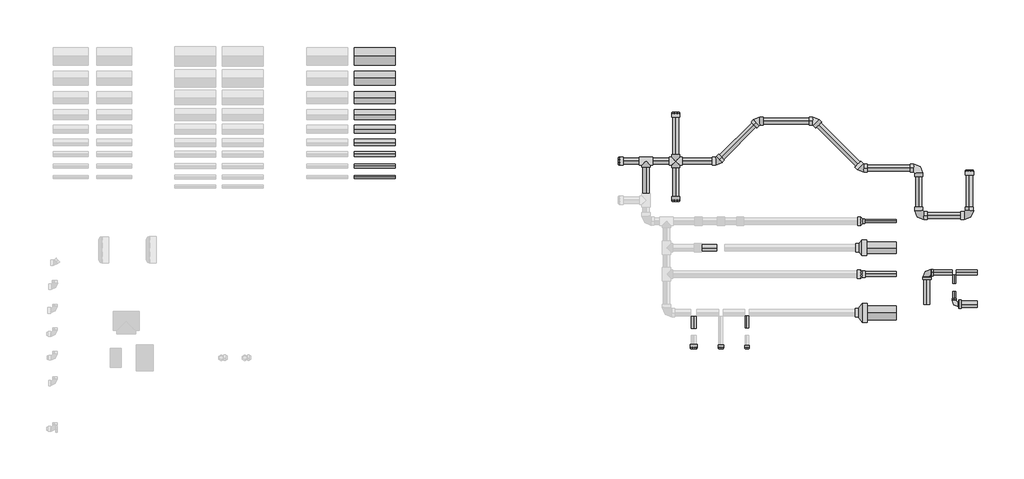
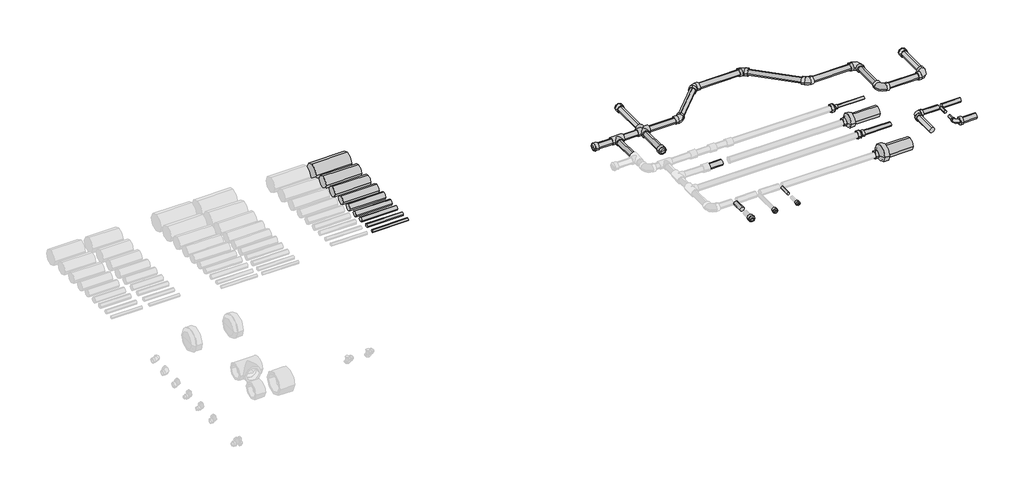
# One storey, part 4 of 4: 35 pipe segments, 22 pipe fittings.
"""IFC4 building model written with IfcOpenShell, lengths in millimetres."""

from ifc_helpers import new_model, si_unit, point, frame, frame_2d, origin, place, context, project, spatial, circle_curve, trimmed, segment, composite_curve, outline, extrude, transform, mapped, element, save
from components import pipe_fitting_b7cdcae7, pipe_fitting_35174708, pipe_fitting_ca50f0bb, pipe_fitting_64472920, pipe_fitting_a1e15368, pipe_fitting_1e9bfa45, pipe_fitting_1f838b72, pipe_fitting_b8240ae8, pipe_fitting_1c1d5d57, pipe_fitting_dfd67f19, pipe_fitting_3659187a, pipe_fitting_ea60cf70, pipe_fitting_eccebf82, pipe_fitting_7bcdb8cd

model = new_model("IFC4")

# Units and contexts
model_context = context("Model", 3, world=origin())
ifc_project = project(units=[si_unit("LENGTHUNIT", "METRE", prefix="MILLI")], contexts=[model_context])

# Site, building, storey
site = spatial("IfcSite", under=ifc_project)
building = spatial("IfcBuilding", under=site)
storey = spatial("IfcBuildingStorey", under=building, Name="Уровень 1", Elevation=0.0)

# Pipe fittings
placement = place(None, origin())
pipe_fitting_shape = pipe_fitting_b7cdcae7(model_context)
element("IfcPipeFitting", 1, ObjectType="17_Крестовина : Белый цвет", at=placement, inside=storey, context=model_context, shape_type="MappedRepresentation", body=[
    mapped(pipe_fitting_shape, transform((2059.9313391, 4186.5754741, 0.0), x_axis=(0.0, 1.0, 0.0), y_axis=(-1.0, 0.0, 0.0), z_axis=(0.0, 0.0, 1.0))),
])
pipe_fitting_2_shape = pipe_fitting_35174708(model_context)
element("IfcPipeFitting", 2, ObjectType="34_Угольник полипропиленовый 45 : Белый цвет", at=placement, inside=storey, context=model_context, shape_type="MappedRepresentation", body=[
    mapped(pipe_fitting_2_shape, transform((2326.0709216, 4186.5754741, 0.0), x_axis=(1.0, 0.0, 0.0), y_axis=(0.0, 1.0, 0.0), z_axis=(0.0, 0.0, 1.0))),
])
element("IfcPipeFitting", 3, ObjectType="34_Угольник полипропиленовый 45 : Белый цвет", at=placement, inside=storey, context=model_context, shape_type="MappedRepresentation", body=[
    mapped(pipe_fitting_2_shape, transform((2578.5198787, 4439.0244311, 0.0), x_axis=(-1.0, 0.0, 0.0), y_axis=(0.0, -1.0, 0.0), z_axis=(0.0, 0.0, 1.0))),
])
element("IfcPipeFitting", 4, ObjectType="34_Угольник полипропиленовый 45 : Белый цвет", at=placement, inside=storey, context=model_context, shape_type="MappedRepresentation", body=[
    mapped(pipe_fitting_2_shape, transform((2938.5198787, 4439.0244311, 0.0), x_axis=(-0.7071067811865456, 0.7071067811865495, 0.0), y_axis=(-0.7071067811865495, -0.7071067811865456, 0.0), z_axis=(0.0, 0.0, 1.0))),
])
element("IfcPipeFitting", 5, ObjectType="34_Угольник полипропиленовый 45 : Белый цвет", at=placement, inside=storey, context=model_context, shape_type="MappedRepresentation", body=[
    mapped(pipe_fitting_2_shape, transform((3235.5047268, 4142.039583, 0.0), x_axis=(0.7071067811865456, -0.7071067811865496, 0.0), y_axis=(0.7071067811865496, 0.7071067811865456, 0.0), z_axis=(0.0, 0.0, 1.0))),
])
pipe_fitting_3_shape = pipe_fitting_ca50f0bb(model_context)
element("IfcPipeFitting", 6, ObjectType="35_Угольник полипропиленовый 90 : Белый цвет", at=placement, inside=storey, context=model_context, shape_type="MappedRepresentation", body=[
    mapped(pipe_fitting_3_shape, transform((3595.5047268, 4142.039583, 0.0), x_axis=(0.0, 1.0, 0.0), y_axis=(-1.0, 0.0, 0.0), z_axis=(0.0, 0.0, 1.0))),
])
element("IfcPipeFitting", 7, ObjectType="35_Угольник полипропиленовый 90 : Белый цвет", at=placement, inside=storey, context=model_context, shape_type="MappedRepresentation", body=[
    mapped(pipe_fitting_3_shape, transform((3595.5047268, 3842.039583, 0.0), x_axis=(0.0, -1.0, 0.0), y_axis=(1.0, 0.0, 0.0), z_axis=(0.0, 0.0, 1.0))),
])
element("IfcPipeFitting", 8, ObjectType="35_Угольник полипропиленовый 90 : Белый цвет", at=placement, inside=storey, context=model_context, shape_type="MappedRepresentation", body=[
    mapped(pipe_fitting_3_shape, transform((3915.5047268, 3842.039583, 0.0), x_axis=(1.0, 0.0, 0.0), y_axis=(0.0, 1.0, 0.0), z_axis=(0.0, 0.0, 1.0))),
])
pipe_fitting_4_shape = pipe_fitting_64472920(model_context)
element("IfcPipeFitting", 9, ObjectType="30_Тройник полипропиленовый : Белый цвет", at=placement, inside=storey, context=model_context, shape_type="MappedRepresentation", body=[
    mapped(pipe_fitting_4_shape, transform((1872.4011304, 4186.5754741, 0.0), x_axis=(-1.0, 0.0, 0.0), y_axis=(0.0, 1.0, 0.0), z_axis=(0.0, 0.0, -1.0))),
])
pipe_fitting_5_shape = pipe_fitting_a1e15368(model_context)
element("IfcPipeFitting", 10, ObjectType="09_Заглушка : Белый цвет", at=placement, inside=storey, context=model_context, shape_type="MappedRepresentation", body=[
    mapped(pipe_fitting_5_shape, transform((1706.0709216, 4186.5754741, 0.0), x_axis=(1.0, 0.0, 0.0), y_axis=(0.0, 1.0, 0.0), z_axis=(0.0, 0.0, 1.0))),
])
element("IfcPipeFitting", 11, ObjectType="09_Заглушка : Белый цвет", at=placement, inside=storey, context=model_context, shape_type="MappedRepresentation", body=[
    mapped(pipe_fitting_5_shape, transform((2059.9313391, 4487.7754741, 0.0), x_axis=(0.0, -1.0, 0.0), y_axis=(1.0, 0.0, 0.0), z_axis=(0.0, 0.0, 1.0))),
])
element("IfcPipeFitting", 12, ObjectType="09_Заглушка : Белый цвет", at=placement, inside=storey, context=model_context, shape_type="MappedRepresentation", body=[
    mapped(pipe_fitting_5_shape, transform((2059.9313391, 3939.0244311, 0.0), x_axis=(0.0, 1.0, 0.0), y_axis=(-1.0, 0.0, 0.0), z_axis=(0.0, 0.0, 1.0))),
])
element("IfcPipeFitting", 13, ObjectType="09_Заглушка : Белый цвет", at=placement, inside=storey, context=model_context, shape_type="MappedRepresentation", body=[
    mapped(pipe_fitting_5_shape, transform((3915.5047268, 4122.039583, 0.0), x_axis=(0.0, -1.0, 0.0), y_axis=(1.0, 0.0, 0.0), z_axis=(0.0, 0.0, 1.0))),
])
pipe_fitting_6_shape = pipe_fitting_1e9bfa45(model_context)
element("IfcPipeFitting", 14, ObjectType="09_Заглушка : Белый цвет", at=placement, inside=storey, context=model_context, shape_type="MappedRepresentation", body=[
    mapped(pipe_fitting_6_shape, transform((2510.2630305, 3006.5754741, 0.0), x_axis=(0.0, 1.0, 0.0), y_axis=(-1.0, 0.0, 0.0), z_axis=(0.0, 0.0, 1.0))),
])
pipe_fitting_7_shape = pipe_fitting_1f838b72(model_context)
element("IfcPipeFitting", 15, ObjectType="09_Заглушка : Белый цвет", at=placement, inside=storey, context=model_context, shape_type="MappedRepresentation", body=[
    mapped(pipe_fitting_7_shape, transform((2345.655444, 3006.5754741, 0.0), x_axis=(0.0, 1.0, 0.0), y_axis=(-1.0, 0.0, 0.0), z_axis=(0.0, 0.0, 1.0))),
])
pipe_fitting_8_shape = pipe_fitting_b8240ae8(model_context)
element("IfcPipeFitting", 16, ObjectType="09_Заглушка : Белый цвет", at=placement, inside=storey, context=model_context, shape_type="MappedRepresentation", body=[
    mapped(pipe_fitting_8_shape, transform((2173.4672449, 3006.5754741, 0.0), x_axis=(0.0, 1.0, 0.0), y_axis=(-1.0, 0.0, 0.0), z_axis=(0.0, 0.0, 1.0))),
])
pipe_fitting_9_shape = pipe_fitting_1c1d5d57(model_context)
element("IfcPipeFitting", 17, ObjectType="23_Муфта переходная ВВ : Белый цвет", at=placement, inside=storey, context=model_context, shape_type="MappedRepresentation", body=[
    mapped(pipe_fitting_9_shape, transform((3232.4011304, 3806.5754741, 0.0), x_axis=(1.0, 0.0, 0.0), y_axis=(0.0, 1.0, 0.0), z_axis=(0.0, 0.0, 1.0))),
])
pipe_fitting_10_shape = pipe_fitting_dfd67f19(model_context)
element("IfcPipeFitting", 18, ObjectType="23_Муфта переходная ВВ : Белый цвет", at=placement, inside=storey, context=model_context, shape_type="MappedRepresentation", body=[
    mapped(pipe_fitting_10_shape, transform((3232.4011304, 3637.9359679, 0.0), x_axis=(1.0, 0.0, 0.0), y_axis=(0.0, 1.0, 0.0), z_axis=(0.0, 0.0, 1.0))),
])
pipe_fitting_11_shape = pipe_fitting_3659187a(model_context)
element("IfcPipeFitting", 19, ObjectType="23_Муфта переходная ВВ : Белый цвет", at=placement, inside=storey, context=model_context, shape_type="MappedRepresentation", body=[
    mapped(pipe_fitting_11_shape, transform((3232.4011304, 3471.255721, 0.0), x_axis=(1.0, 0.0, 0.0), y_axis=(0.0, 1.0, 0.0), z_axis=(0.0, 0.0, 1.0))),
])
pipe_fitting_12_shape = pipe_fitting_ea60cf70(model_context)
element("IfcPipeFitting", 20, ObjectType="23_Муфта переходная ВВ : Белый цвет", at=placement, inside=storey, context=model_context, shape_type="MappedRepresentation", body=[
    mapped(pipe_fitting_12_shape, transform((3232.4011304, 3226.5754741, 0.0), x_axis=(1.0, 0.0, 0.0), y_axis=(0.0, 1.0, 0.0), z_axis=(0.0, 0.0, 1.0))),
])
pipe_fitting_13_shape = pipe_fitting_eccebf82(model_context)
element("IfcPipeFitting", 21, ObjectType="40_Угольник переходной 90 : Белый цвет", at=placement, inside=storey, context=model_context, shape_type="MappedRepresentation", body=[
    mapped(pipe_fitting_13_shape, transform((3646.3831531, 3476.9673083, 0.0), x_axis=(0.0, 1.0, 0.0), y_axis=(-1.0, 0.0, 0.0), z_axis=(0.0, 0.0, 1.0))),
])
pipe_fitting_14_shape = pipe_fitting_7bcdb8cd(model_context)
element("IfcPipeFitting", 22, ObjectType="40_Угольник переходной 90 : Белый цвет", at=placement, inside=storey, context=model_context, shape_type="MappedRepresentation", body=[
    mapped(pipe_fitting_14_shape, transform((3823.5331531, 3280.5671638, 0.0), x_axis=(-1.0, 0.0, 0.0), y_axis=(0.0, -1.0, 0.0), z_axis=(0.0, 0.0, 1.0))),
])

# Pipe segments
element("IfcPipeSegment", 23, ObjectType="Полипропиленовые трубы, армированные стекловолокном PN25/SDR6, 2 м_Белый цвет", at=placement, inside=storey, context=model_context, shape_type="SweptSolid", body=[
    extrude(outline(composite_curve([segment(trimmed(circle_curve(frame_2d((4848.4107276, 0.0)), 55.0), [point((4793.4107276, 0.0))], [point((4848.4107276, 55.0))], False, "CARTESIAN"), True, "CONTINUOUS"), segment(trimmed(circle_curve(frame_2d((4848.4107276, 0.0)), 55.0), [point((4848.4107276, 55.0))], [point((4903.4107276, 0.0))], False, "CARTESIAN"), True, "CONTINUOUS"), segment(trimmed(circle_curve(frame_2d((4848.4107276, 0.0)), 55.0), [point((4903.4107276, 0.0))], [point((4848.4107276, -55.0))], False, "CARTESIAN"), True, "CONTINUOUS"), segment(trimmed(circle_curve(frame_2d((4848.4107276, 0.0)), 55.0), [point((4848.4107276, -55.0))], [point((4793.4107276, 0.0))], False, "CARTESIAN"), True, "CONTINUOUS")], self_intersect=False)), frame((29.4249757, 0.0, 0.0), z_axis=(1.0, 0.0, 0.0), x_axis=(0.0, 1.0, 0.0)), (0.0, 0.0, 1.0), 260.0),
])
element("IfcPipeSegment", 24, ObjectType="Полипропиленовые трубы, армированные стекловолокном PN25/SDR6, 2 м_Белый цвет", at=placement, inside=storey, context=model_context, shape_type="SweptSolid", body=[
    extrude(outline(composite_curve([segment(trimmed(circle_curve(frame_2d((4709.8355043, 0.0)), 45.0), [point((4664.8355043, 0.0))], [point((4709.8355043, 45.0))], False, "CARTESIAN"), True, "CONTINUOUS"), segment(trimmed(circle_curve(frame_2d((4709.8355043, 0.0)), 45.0), [point((4709.8355043, 45.0))], [point((4754.8355043, 0.0))], False, "CARTESIAN"), True, "CONTINUOUS"), segment(trimmed(circle_curve(frame_2d((4709.8355043, 0.0)), 45.0), [point((4754.8355043, 0.0))], [point((4709.8355043, -45.0))], False, "CARTESIAN"), True, "CONTINUOUS"), segment(trimmed(circle_curve(frame_2d((4709.8355043, 0.0)), 45.0), [point((4709.8355043, -45.0))], [point((4664.8355043, 0.0))], False, "CARTESIAN"), True, "CONTINUOUS")], self_intersect=False)), frame((29.4249757, 0.0, 0.0), z_axis=(1.0, 0.0, 0.0), x_axis=(0.0, 1.0, 0.0)), (0.0, 0.0, 1.0), 260.0),
])
element("IfcPipeSegment", 25, ObjectType="Полипропиленовые трубы, армированные стекловолокном PN25/SDR6, 2 м_Белый цвет", at=placement, inside=storey, context=model_context, shape_type="SweptSolid", body=[
    extrude(outline(composite_curve([segment(trimmed(circle_curve(frame_2d((4588.2982183, 0.0)), 37.5), [point((4550.7982183, 0.0))], [point((4588.2982183, 37.5))], False, "CARTESIAN"), True, "CONTINUOUS"), segment(trimmed(circle_curve(frame_2d((4588.2982183, 0.0)), 37.5), [point((4588.2982183, 37.5))], [point((4625.7982183, 0.0))], False, "CARTESIAN"), True, "CONTINUOUS"), segment(trimmed(circle_curve(frame_2d((4588.2982183, 0.0)), 37.5), [point((4625.7982183, 0.0))], [point((4588.2982183, -37.5))], False, "CARTESIAN"), True, "CONTINUOUS"), segment(trimmed(circle_curve(frame_2d((4588.2982183, 0.0)), 37.5), [point((4588.2982183, -37.5))], [point((4550.7982183, 0.0))], False, "CARTESIAN"), True, "CONTINUOUS")], self_intersect=False)), frame((29.4249757, 0.0, 0.0), z_axis=(1.0, 0.0, 0.0), x_axis=(0.0, 1.0, 0.0)), (0.0, 0.0, 1.0), 260.0),
])
element("IfcPipeSegment", 26, ObjectType="Полипропиленовые трубы, армированные стекловолокном PN25/SDR6, 2 м_Белый цвет", at=placement, inside=storey, context=model_context, shape_type="SweptSolid", body=[
    extrude(outline(composite_curve([segment(trimmed(circle_curve(frame_2d((4480.6238499, 0.0)), 31.5), [point((4449.1238499, 0.0))], [point((4480.6238499, 31.5))], False, "CARTESIAN"), True, "CONTINUOUS"), segment(trimmed(circle_curve(frame_2d((4480.6238499, 0.0)), 31.5), [point((4480.6238499, 31.5))], [point((4512.1238499, 0.0))], False, "CARTESIAN"), True, "CONTINUOUS"), segment(trimmed(circle_curve(frame_2d((4480.6238499, 0.0)), 31.5), [point((4512.1238499, 0.0))], [point((4480.6238499, -31.5))], False, "CARTESIAN"), True, "CONTINUOUS"), segment(trimmed(circle_curve(frame_2d((4480.6238499, 0.0)), 31.5), [point((4480.6238499, -31.5))], [point((4449.1238499, 0.0))], False, "CARTESIAN"), True, "CONTINUOUS")], self_intersect=False)), frame((29.4249757, 0.0, 0.0), z_axis=(1.0, 0.0, 0.0), x_axis=(0.0, 1.0, 0.0)), (0.0, 0.0, 1.0), 260.0),
])
element("IfcPipeSegment", 27, ObjectType="Полипропиленовые трубы, армированные стекловолокном PN25/SDR6, 2 м_Белый цвет", at=placement, inside=storey, context=model_context, shape_type="SweptSolid", body=[
    extrude(outline(composite_curve([segment(trimmed(circle_curve(frame_2d((4389.5013485, 0.0)), 25.0), [point((4364.5013485, 0.0))], [point((4389.5013485, 25.0))], False, "CARTESIAN"), True, "CONTINUOUS"), segment(trimmed(circle_curve(frame_2d((4389.5013485, 0.0)), 25.0), [point((4389.5013485, 25.0))], [point((4414.5013485, 0.0))], False, "CARTESIAN"), True, "CONTINUOUS"), segment(trimmed(circle_curve(frame_2d((4389.5013485, 0.0)), 25.0), [point((4414.5013485, 0.0))], [point((4389.5013485, -25.0))], False, "CARTESIAN"), True, "CONTINUOUS"), segment(trimmed(circle_curve(frame_2d((4389.5013485, 0.0)), 25.0), [point((4389.5013485, -25.0))], [point((4364.5013485, 0.0))], False, "CARTESIAN"), True, "CONTINUOUS")], self_intersect=False)), frame((29.4249757, 0.0, 0.0), z_axis=(1.0, 0.0, 0.0), x_axis=(0.0, 1.0, 0.0)), (0.0, 0.0, 1.0), 260.0),
])
element("IfcPipeSegment", 28, ObjectType="Полипропиленовые трубы, армированные стекловолокном PN25/SDR6, 2 м_Белый цвет", at=placement, inside=storey, context=model_context, shape_type="SweptSolid", body=[
    extrude(outline(composite_curve([segment(trimmed(circle_curve(frame_2d((4303.8771946, 0.0)), 20.0), [point((4283.8771946, 0.0))], [point((4303.8771946, 20.0))], False, "CARTESIAN"), True, "CONTINUOUS"), segment(trimmed(circle_curve(frame_2d((4303.8771946, 0.0)), 20.0), [point((4303.8771946, 20.0))], [point((4323.8771946, 0.0))], False, "CARTESIAN"), True, "CONTINUOUS"), segment(trimmed(circle_curve(frame_2d((4303.8771946, 0.0)), 20.0), [point((4323.8771946, 0.0))], [point((4303.8771946, -20.0))], False, "CARTESIAN"), True, "CONTINUOUS"), segment(trimmed(circle_curve(frame_2d((4303.8771946, 0.0)), 20.0), [point((4303.8771946, -20.0))], [point((4283.8771946, 0.0))], False, "CARTESIAN"), True, "CONTINUOUS")], self_intersect=False)), frame((29.4249757, 0.0, 0.0), z_axis=(1.0, 0.0, 0.0), x_axis=(0.0, 1.0, 0.0)), (0.0, 0.0, 1.0), 260.0),
])
element("IfcPipeSegment", 29, ObjectType="Полипропиленовые трубы, армированные стекловолокном PN25/SDR6, 2 м_Белый цвет", at=placement, inside=storey, context=model_context, shape_type="SweptSolid", body=[
    extrude(outline(composite_curve([segment(trimmed(circle_curve(frame_2d((4230.5606883, 0.0)), 16.0), [point((4214.5606883, 0.0))], [point((4230.5606883, 16.0))], False, "CARTESIAN"), True, "CONTINUOUS"), segment(trimmed(circle_curve(frame_2d((4230.5606883, 0.0)), 16.0), [point((4230.5606883, 16.0))], [point((4246.5606883, 0.0))], False, "CARTESIAN"), True, "CONTINUOUS"), segment(trimmed(circle_curve(frame_2d((4230.5606883, 0.0)), 16.0), [point((4246.5606883, 0.0))], [point((4230.5606883, -16.0))], False, "CARTESIAN"), True, "CONTINUOUS"), segment(trimmed(circle_curve(frame_2d((4230.5606883, 0.0)), 16.0), [point((4230.5606883, -16.0))], [point((4214.5606883, 0.0))], False, "CARTESIAN"), True, "CONTINUOUS")], self_intersect=False)), frame((29.4249757, 0.0, 0.0), z_axis=(1.0, 0.0, 0.0), x_axis=(0.0, 1.0, 0.0)), (0.0, 0.0, 1.0), 260.0),
])
element("IfcPipeSegment", 30, ObjectType="Полипропиленовые трубы, армированные стекловолокном PN25/SDR6, 2 м_Белый цвет", at=placement, inside=storey, context=model_context, shape_type="SweptSolid", body=[
    extrude(outline(composite_curve([segment(trimmed(circle_curve(frame_2d((4154.7986605, 0.0)), 12.5), [point((4142.2986605, 0.0))], [point((4154.7986605, 12.5))], False, "CARTESIAN"), True, "CONTINUOUS"), segment(trimmed(circle_curve(frame_2d((4154.7986605, 0.0)), 12.5), [point((4154.7986605, 12.5))], [point((4167.2986605, 0.0))], False, "CARTESIAN"), True, "CONTINUOUS"), segment(trimmed(circle_curve(frame_2d((4154.7986605, 0.0)), 12.5), [point((4167.2986605, 0.0))], [point((4154.7986605, -12.5))], False, "CARTESIAN"), True, "CONTINUOUS"), segment(trimmed(circle_curve(frame_2d((4154.7986605, 0.0)), 12.5), [point((4154.7986605, -12.5))], [point((4142.2986605, 0.0))], False, "CARTESIAN"), True, "CONTINUOUS")], self_intersect=False)), frame((29.4249757, 0.0, 0.0), z_axis=(1.0, 0.0, 0.0), x_axis=(0.0, 1.0, 0.0)), (0.0, 0.0, 1.0), 260.0),
])
element("IfcPipeSegment", 31, ObjectType="Полипропиленовые трубы, армированные стекловолокном PN25/SDR6, 2 м_Белый цвет", at=placement, inside=storey, context=model_context, shape_type="SweptSolid", body=[
    extrude(outline(composite_curve([segment(trimmed(circle_curve(frame_2d((4085.0159711, 0.0)), 10.0), [point((4075.0159711, 0.0))], [point((4085.0159711, 10.0))], False, "CARTESIAN"), True, "CONTINUOUS"), segment(trimmed(circle_curve(frame_2d((4085.0159711, 0.0)), 10.0), [point((4085.0159711, 10.0))], [point((4095.0159711, 0.0))], False, "CARTESIAN"), True, "CONTINUOUS"), segment(trimmed(circle_curve(frame_2d((4085.0159711, 0.0)), 10.0), [point((4095.0159711, 0.0))], [point((4085.0159711, -10.0))], False, "CARTESIAN"), True, "CONTINUOUS"), segment(trimmed(circle_curve(frame_2d((4085.0159711, 0.0)), 10.0), [point((4085.0159711, -10.0))], [point((4075.0159711, 0.0))], False, "CARTESIAN"), True, "CONTINUOUS")], self_intersect=False)), frame((29.4249757, 0.0, 0.0), z_axis=(1.0, 0.0, 0.0), x_axis=(0.0, 1.0, 0.0)), (0.0, 0.0, 1.0), 260.0),
])
element("IfcPipeSegment", 32, ObjectType="PN10/SDR11, 4 м_Белый цвет", at=placement, inside=storey, context=model_context, shape_type="SweptSolid", body=[
    extrude(outline(composite_curve([segment(trimmed(circle_curve(frame_2d((4186.5754741, 0.0)), 20.0), [point((4166.5754741, 0.0))], [point((4186.5754741, 20.0))], False, "CARTESIAN"), True, "CONTINUOUS"), segment(trimmed(circle_curve(frame_2d((4186.5754741, 0.0)), 20.0), [point((4186.5754741, 20.0))], [point((4206.5754741, 0.0))], False, "CARTESIAN"), True, "CONTINUOUS"), segment(trimmed(circle_curve(frame_2d((4186.5754741, 0.0)), 20.0), [point((4206.5754741, 0.0))], [point((4186.5754741, -20.0))], False, "CARTESIAN"), True, "CONTINUOUS"), segment(trimmed(circle_curve(frame_2d((4186.5754741, 0.0)), 20.0), [point((4186.5754741, -20.0))], [point((4166.5754741, 0.0))], False, "CARTESIAN"), True, "CONTINUOUS")], self_intersect=False)), frame((2081.1313391, 0.0, 0.0), z_axis=(1.0, 0.0, 0.0), x_axis=(0.0, 1.0, 0.0)), (0.0, 0.0, 1.0), 231.3326671),
])
element("IfcPipeSegment", 33, ObjectType="PN10/SDR11, 4 м_Белый цвет", at=placement, inside=storey, context=model_context, shape_type="SweptSolid", body=[
    extrude(outline(composite_curve([segment(trimmed(circle_curve(frame_2d((0.0, 2059.9313391)), 20.0), [point((0.0, 2039.9313391))], [point((-20.0, 2059.9313391))], False, "CARTESIAN"), True, "CONTINUOUS"), segment(trimmed(circle_curve(frame_2d((0.0, 2059.9313391)), 20.0), [point((-20.0, 2059.9313391))], [point((0.0, 2079.9313391))], False, "CARTESIAN"), True, "CONTINUOUS"), segment(trimmed(circle_curve(frame_2d((0.0, 2059.9313391)), 20.0), [point((0.0, 2079.9313391))], [point((20.0, 2059.9313391))], False, "CARTESIAN"), True, "CONTINUOUS"), segment(trimmed(circle_curve(frame_2d((0.0, 2059.9313391)), 20.0), [point((20.0, 2059.9313391))], [point((0.0, 2039.9313391))], False, "CARTESIAN"), True, "CONTINUOUS")], self_intersect=False)), frame((0.0, 3939.0244311, 0.0), z_axis=(0.0, 1.0, 0.0), x_axis=(0.0, 0.0, 1.0)), (0.0, 0.0, 1.0), 226.351043),
])
element("IfcPipeSegment", 34, ObjectType="PN10/SDR11, 4 м_Белый цвет", at=placement, inside=storey, context=model_context, shape_type="SweptSolid", body=[
    extrude(outline(composite_curve([segment(trimmed(circle_curve(frame_2d((0.0, 2059.9313391)), 20.0), [point((0.0, 2079.9313391))], [point((20.0, 2059.9313391))], False, "CARTESIAN"), True, "CONTINUOUS"), segment(trimmed(circle_curve(frame_2d((0.0, 2059.9313391)), 20.0), [point((20.0, 2059.9313391))], [point((0.0, 2039.9313391))], False, "CARTESIAN"), True, "CONTINUOUS"), segment(trimmed(circle_curve(frame_2d((0.0, 2059.9313391)), 20.0), [point((0.0, 2039.9313391))], [point((-20.0, 2059.9313391))], False, "CARTESIAN"), True, "CONTINUOUS"), segment(trimmed(circle_curve(frame_2d((0.0, 2059.9313391)), 20.0), [point((-20.0, 2059.9313391))], [point((0.0, 2079.9313391))], False, "CARTESIAN"), True, "CONTINUOUS")], self_intersect=False)), frame((0.0, 4207.7754741, 0.0), z_axis=(0.0, 1.0, 0.0), x_axis=(0.0, 0.0, 1.0)), (0.0, 0.0, 1.0), 280.0),
])
element("IfcPipeSegment", 35, ObjectType="PN10/SDR11, 4 м_Белый цвет", at=placement, inside=storey, context=model_context, shape_type="SweptSolid", body=[
    extrude(outline(composite_curve([segment(trimmed(circle_curve(frame_2d((4186.5754741, 0.0)), 20.0), [point((4166.5754741, 0.0))], [point((4186.5754741, 20.0))], False, "CARTESIAN"), True, "CONTINUOUS"), segment(trimmed(circle_curve(frame_2d((4186.5754741, 0.0)), 20.0), [point((4186.5754741, 20.0))], [point((4206.5754741, 0.0))], False, "CARTESIAN"), True, "CONTINUOUS"), segment(trimmed(circle_curve(frame_2d((4186.5754741, 0.0)), 20.0), [point((4206.5754741, 0.0))], [point((4186.5754741, -20.0))], False, "CARTESIAN"), True, "CONTINUOUS"), segment(trimmed(circle_curve(frame_2d((4186.5754741, 0.0)), 20.0), [point((4186.5754741, -20.0))], [point((4166.5754741, 0.0))], False, "CARTESIAN"), True, "CONTINUOUS")], self_intersect=False)), frame((1894.4011304, 0.0, 0.0), z_axis=(1.0, 0.0, 0.0), x_axis=(0.0, 1.0, 0.0)), (0.0, 0.0, 1.0), 144.3302087),
])
element("IfcPipeSegment", 36, ObjectType="PN10/SDR11, 4 м_Белый цвет", at=placement, inside=storey, context=model_context, shape_type="SweptSolid", body=[
    extrude(outline(composite_curve([segment(trimmed(circle_curve(frame_2d((0.0, 20.0)), 20.0), [point((20.0, 20.0))], [point((0.0, 0.0))], False, "CARTESIAN"), True, "CONTINUOUS"), segment(trimmed(circle_curve(frame_2d((0.0, 20.0)), 20.0), [point((0.0, 0.0))], [point((-20.0, 20.0))], False, "CARTESIAN"), True, "CONTINUOUS"), segment(trimmed(circle_curve(frame_2d((0.0, 20.0)), 20.0), [point((-20.0, 20.0))], [point((0.0, 40.0))], False, "CARTESIAN"), True, "CONTINUOUS"), segment(trimmed(circle_curve(frame_2d((0.0, 20.0)), 20.0), [point((0.0, 40.0))], [point((20.0, 20.0))], False, "CARTESIAN"), True, "CONTINUOUS")], self_intersect=False)), frame((2335.6924639, 4196.1970164, 20.0), z_axis=(0.7071067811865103, 0.7071067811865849, 0.0), x_axis=(0.7071067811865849, -0.7071067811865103, 0.0)), (0.0, 0.0, 1.0), 329.8029078),
])
element("IfcPipeSegment", 37, ObjectType="PN10/SDR11, 4 м_Белый цвет", at=placement, inside=storey, context=model_context, shape_type="SweptSolid", body=[
    extrude(outline(composite_curve([segment(trimmed(circle_curve(frame_2d((4439.0244311, 0.0)), 20.0), [point((4419.0244311, 0.0))], [point((4439.0244311, 20.0))], False, "CARTESIAN"), True, "CONTINUOUS"), segment(trimmed(circle_curve(frame_2d((4439.0244311, 0.0)), 20.0), [point((4439.0244311, 20.0))], [point((4459.0244311, 0.0))], False, "CARTESIAN"), True, "CONTINUOUS"), segment(trimmed(circle_curve(frame_2d((4439.0244311, 0.0)), 20.0), [point((4459.0244311, 0.0))], [point((4439.0244311, -20.0))], False, "CARTESIAN"), True, "CONTINUOUS"), segment(trimmed(circle_curve(frame_2d((4439.0244311, 0.0)), 20.0), [point((4439.0244311, -20.0))], [point((4419.0244311, 0.0))], False, "CARTESIAN"), True, "CONTINUOUS")], self_intersect=False)), frame((2592.1267942, 0.0, 0.0), z_axis=(1.0, 0.0, 0.0), x_axis=(0.0, 1.0, 0.0)), (0.0, 0.0, 1.0), 332.786169),
])
element("IfcPipeSegment", 38, ObjectType="PN10/SDR11, 4 м_Белый цвет", at=placement, inside=storey, context=model_context, shape_type="SweptSolid", body=[
    extrude(outline(composite_curve([segment(trimmed(circle_curve(frame_2d((0.0, -20.0)), 20.0), [point((-20.0, -20.0))], [point((0.0, 0.0))], False, "CARTESIAN"), True, "CONTINUOUS"), segment(trimmed(circle_curve(frame_2d((0.0, -20.0)), 20.0), [point((0.0, 0.0))], [point((20.0, -20.0))], False, "CARTESIAN"), True, "CONTINUOUS"), segment(trimmed(circle_curve(frame_2d((0.0, -20.0)), 20.0), [point((20.0, -20.0))], [point((0.0, -40.0))], False, "CARTESIAN"), True, "CONTINUOUS"), segment(trimmed(circle_curve(frame_2d((0.0, -20.0)), 20.0), [point((0.0, -40.0))], [point((-20.0, -20.0))], False, "CARTESIAN"), True, "CONTINUOUS")], self_intersect=False)), frame((3225.8831845, 4151.6611253, -20.0), z_axis=(-0.7071067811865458, 0.7071067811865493, 0.0), x_axis=(0.7071067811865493, 0.7071067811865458, 0.0)), (0.0, 0.0, 1.0), 392.786169),
])
element("IfcPipeSegment", 39, ObjectType="PN10/SDR11, 4 м_Белый цвет", at=placement, inside=storey, context=model_context, shape_type="SweptSolid", body=[
    extrude(outline(composite_curve([segment(trimmed(circle_curve(frame_2d((4142.039583, 0.0)), 20.0), [point((4122.039583, 0.0))], [point((4142.039583, 20.0))], False, "CARTESIAN"), True, "CONTINUOUS"), segment(trimmed(circle_curve(frame_2d((4142.039583, 0.0)), 20.0), [point((4142.039583, 20.0))], [point((4162.039583, 0.0))], False, "CARTESIAN"), True, "CONTINUOUS"), segment(trimmed(circle_curve(frame_2d((4142.039583, 0.0)), 20.0), [point((4162.039583, 0.0))], [point((4142.039583, -20.0))], False, "CARTESIAN"), True, "CONTINUOUS"), segment(trimmed(circle_curve(frame_2d((4142.039583, 0.0)), 20.0), [point((4142.039583, -20.0))], [point((4122.039583, 0.0))], False, "CARTESIAN"), True, "CONTINUOUS")], self_intersect=False)), frame((3249.1116423, 0.0, 0.0), z_axis=(1.0, 0.0, 0.0), x_axis=(0.0, 1.0, 0.0)), (0.0, 0.0, 1.0), 313.5430845),
])
element("IfcPipeSegment", 40, ObjectType="PN10/SDR11, 4 м_Белый цвет", at=placement, inside=storey, context=model_context, shape_type="SweptSolid", body=[
    extrude(outline(composite_curve([segment(trimmed(circle_curve(frame_2d((0.0, 3595.5047268)), 20.0), [point((0.0, 3575.5047268))], [point((-20.0, 3595.5047268))], False, "CARTESIAN"), True, "CONTINUOUS"), segment(trimmed(circle_curve(frame_2d((0.0, 3595.5047268)), 20.0), [point((-20.0, 3595.5047268))], [point((0.0, 3615.5047268))], False, "CARTESIAN"), True, "CONTINUOUS"), segment(trimmed(circle_curve(frame_2d((0.0, 3595.5047268)), 20.0), [point((0.0, 3615.5047268))], [point((20.0, 3595.5047268))], False, "CARTESIAN"), True, "CONTINUOUS"), segment(trimmed(circle_curve(frame_2d((0.0, 3595.5047268)), 20.0), [point((20.0, 3595.5047268))], [point((0.0, 3575.5047268))], False, "CARTESIAN"), True, "CONTINUOUS")], self_intersect=False)), frame((0.0, 3874.889583, 0.0), z_axis=(0.0, 1.0, 0.0), x_axis=(0.0, 0.0, 1.0)), (0.0, 0.0, 1.0), 234.3),
])
element("IfcPipeSegment", 41, ObjectType="PN10/SDR11, 4 м_Белый цвет", at=placement, inside=storey, context=model_context, shape_type="SweptSolid", body=[
    extrude(outline(composite_curve([segment(trimmed(circle_curve(frame_2d((3842.039583, 0.0)), 20.0), [point((3822.039583, 0.0))], [point((3842.039583, 20.0))], False, "CARTESIAN"), True, "CONTINUOUS"), segment(trimmed(circle_curve(frame_2d((3842.039583, 0.0)), 20.0), [point((3842.039583, 20.0))], [point((3862.039583, 0.0))], False, "CARTESIAN"), True, "CONTINUOUS"), segment(trimmed(circle_curve(frame_2d((3842.039583, 0.0)), 20.0), [point((3862.039583, 0.0))], [point((3842.039583, -20.0))], False, "CARTESIAN"), True, "CONTINUOUS"), segment(trimmed(circle_curve(frame_2d((3842.039583, 0.0)), 20.0), [point((3842.039583, -20.0))], [point((3822.039583, 0.0))], False, "CARTESIAN"), True, "CONTINUOUS")], self_intersect=False)), frame((3628.3547268, 0.0, 0.0), z_axis=(1.0, 0.0, 0.0), x_axis=(0.0, 1.0, 0.0)), (0.0, 0.0, 1.0), 254.3),
])
element("IfcPipeSegment", 42, ObjectType="PN10/SDR11, 4 м_Белый цвет", at=placement, inside=storey, context=model_context, shape_type="SweptSolid", body=[
    extrude(outline(composite_curve([segment(trimmed(circle_curve(frame_2d((0.0, 3915.5047268)), 20.0), [point((0.0, 3935.5047268))], [point((20.0, 3915.5047268))], False, "CARTESIAN"), True, "CONTINUOUS"), segment(trimmed(circle_curve(frame_2d((0.0, 3915.5047268)), 20.0), [point((20.0, 3915.5047268))], [point((0.0, 3895.5047268))], False, "CARTESIAN"), True, "CONTINUOUS"), segment(trimmed(circle_curve(frame_2d((0.0, 3915.5047268)), 20.0), [point((0.0, 3895.5047268))], [point((-20.0, 3915.5047268))], False, "CARTESIAN"), True, "CONTINUOUS"), segment(trimmed(circle_curve(frame_2d((0.0, 3915.5047268)), 20.0), [point((-20.0, 3915.5047268))], [point((0.0, 3935.5047268))], False, "CARTESIAN"), True, "CONTINUOUS")], self_intersect=False)), frame((0.0, 3874.889583, 0.0), z_axis=(0.0, 1.0, 0.0), x_axis=(0.0, 0.0, 1.0)), (0.0, 0.0, 1.0), 247.15),
])
element("IfcPipeSegment", 43, ObjectType="PN10/SDR11, 4 м_Белый цвет", at=placement, inside=storey, context=model_context, shape_type="SweptSolid", body=[
    extrude(outline(composite_curve([segment(trimmed(circle_curve(frame_2d((4186.5754741, 0.0)), 20.0), [point((4166.5754741, 0.0))], [point((4186.5754741, 20.0))], False, "CARTESIAN"), True, "CONTINUOUS"), segment(trimmed(circle_curve(frame_2d((4186.5754741, 0.0)), 20.0), [point((4186.5754741, 20.0))], [point((4206.5754741, 0.0))], False, "CARTESIAN"), True, "CONTINUOUS"), segment(trimmed(circle_curve(frame_2d((4186.5754741, 0.0)), 20.0), [point((4206.5754741, 0.0))], [point((4186.5754741, -20.0))], False, "CARTESIAN"), True, "CONTINUOUS"), segment(trimmed(circle_curve(frame_2d((4186.5754741, 0.0)), 20.0), [point((4186.5754741, -20.0))], [point((4166.5754741, 0.0))], False, "CARTESIAN"), True, "CONTINUOUS")], self_intersect=False)), frame((1706.0709216, 0.0, 0.0), z_axis=(1.0, 0.0, 0.0), x_axis=(0.0, 1.0, 0.0)), (0.0, 0.0, 1.0), 144.3302087),
])
element("IfcPipeSegment", 44, ObjectType="PN10/SDR11, 4 м_Белый цвет", at=placement, inside=storey, context=model_context, shape_type="SweptSolid", body=[
    extrude(outline(composite_curve([segment(trimmed(circle_curve(frame_2d((0.0, 1872.4011304)), 20.0), [point((0.0, 1852.4011304))], [point((-20.0, 1872.4011304))], False, "CARTESIAN"), True, "CONTINUOUS"), segment(trimmed(circle_curve(frame_2d((0.0, 1872.4011304)), 20.0), [point((-20.0, 1872.4011304))], [point((0.0, 1892.4011304))], False, "CARTESIAN"), True, "CONTINUOUS"), segment(trimmed(circle_curve(frame_2d((0.0, 1872.4011304)), 20.0), [point((0.0, 1892.4011304))], [point((20.0, 1872.4011304))], False, "CARTESIAN"), True, "CONTINUOUS"), segment(trimmed(circle_curve(frame_2d((0.0, 1872.4011304)), 20.0), [point((20.0, 1872.4011304))], [point((0.0, 1852.4011304))], False, "CARTESIAN"), True, "CONTINUOUS")], self_intersect=False)), frame((0.0, 3961.0244311, 0.0), z_axis=(0.0, 1.0, 0.0), x_axis=(0.0, 0.0, 1.0)), (0.0, 0.0, 1.0), 206.551043),
])
element("IfcPipeSegment", 45, ObjectType="PN10/SDR11, 4 м_Белый цвет", at=placement, inside=storey, context=model_context, shape_type="SweptSolid", body=[
    extrude(outline(composite_curve([segment(trimmed(circle_curve(frame_2d((3806.5754741, 0.0)), 10.0), [point((3796.5754741, 0.0))], [point((3806.5754741, 10.0))], False, "CARTESIAN"), True, "CONTINUOUS"), segment(trimmed(circle_curve(frame_2d((3806.5754741, 0.0)), 10.0), [point((3806.5754741, 10.0))], [point((3816.5754741, 0.0))], False, "CARTESIAN"), True, "CONTINUOUS"), segment(trimmed(circle_curve(frame_2d((3806.5754741, 0.0)), 10.0), [point((3816.5754741, 0.0))], [point((3806.5754741, -10.0))], False, "CARTESIAN"), True, "CONTINUOUS"), segment(trimmed(circle_curve(frame_2d((3806.5754741, 0.0)), 10.0), [point((3806.5754741, -10.0))], [point((3796.5754741, 0.0))], False, "CARTESIAN"), True, "CONTINUOUS")], self_intersect=False)), frame((3241.4011304, 0.0, 0.0), z_axis=(1.0, 0.0, 0.0), x_axis=(0.0, 1.0, 0.0)), (0.0, 0.0, 1.0), 211.0),
])
element("IfcPipeSegment", 46, ObjectType="PN10/SDR11, 4 м_Белый цвет", at=placement, inside=storey, context=model_context, shape_type="SweptSolid", body=[
    extrude(outline(composite_curve([segment(trimmed(circle_curve(frame_2d((3637.9359679, 0.0)), 37.5), [point((3600.4359679, 0.0))], [point((3637.9359679, 37.5))], False, "CARTESIAN"), True, "CONTINUOUS"), segment(trimmed(circle_curve(frame_2d((3637.9359679, 0.0)), 37.5), [point((3637.9359679, 37.5))], [point((3675.4359679, 0.0))], False, "CARTESIAN"), True, "CONTINUOUS"), segment(trimmed(circle_curve(frame_2d((3637.9359679, 0.0)), 37.5), [point((3675.4359679, 0.0))], [point((3637.9359679, -37.5))], False, "CARTESIAN"), True, "CONTINUOUS"), segment(trimmed(circle_curve(frame_2d((3637.9359679, 0.0)), 37.5), [point((3637.9359679, -37.5))], [point((3600.4359679, 0.0))], False, "CARTESIAN"), True, "CONTINUOUS")], self_intersect=False)), frame((3236.9011304, 0.0, 0.0), z_axis=(1.0, 0.0, 0.0), x_axis=(0.0, 1.0, 0.0)), (0.0, 0.0, 1.0), 215.5),
])
element("IfcPipeSegment", 47, ObjectType="PN10/SDR11, 4 м_Белый цвет", at=placement, inside=storey, context=model_context, shape_type="SweptSolid", body=[
    extrude(outline(composite_curve([segment(trimmed(circle_curve(frame_2d((3471.255721, 0.0)), 16.0), [point((3455.255721, 0.0))], [point((3471.255721, 16.0))], False, "CARTESIAN"), True, "CONTINUOUS"), segment(trimmed(circle_curve(frame_2d((3471.255721, 0.0)), 16.0), [point((3471.255721, 16.0))], [point((3487.255721, 0.0))], False, "CARTESIAN"), True, "CONTINUOUS"), segment(trimmed(circle_curve(frame_2d((3471.255721, 0.0)), 16.0), [point((3487.255721, 0.0))], [point((3471.255721, -16.0))], False, "CARTESIAN"), True, "CONTINUOUS"), segment(trimmed(circle_curve(frame_2d((3471.255721, 0.0)), 16.0), [point((3471.255721, -16.0))], [point((3455.255721, 0.0))], False, "CARTESIAN"), True, "CONTINUOUS")], self_intersect=False)), frame((3238.9011304, 0.0, 0.0), z_axis=(1.0, 0.0, 0.0), x_axis=(0.0, 1.0, 0.0)), (0.0, 0.0, 1.0), 213.5),
])
element("IfcPipeSegment", 48, ObjectType="PN10/SDR11, 4 м_Белый цвет", at=placement, inside=storey, context=model_context, shape_type="SweptSolid", body=[
    extrude(outline(composite_curve([segment(trimmed(circle_curve(frame_2d((3226.5754741, 0.0)), 45.0), [point((3181.5754741, 0.0))], [point((3226.5754741, 45.0))], False, "CARTESIAN"), True, "CONTINUOUS"), segment(trimmed(circle_curve(frame_2d((3226.5754741, 0.0)), 45.0), [point((3226.5754741, 45.0))], [point((3271.5754741, 0.0))], False, "CARTESIAN"), True, "CONTINUOUS"), segment(trimmed(circle_curve(frame_2d((3226.5754741, 0.0)), 45.0), [point((3271.5754741, 0.0))], [point((3226.5754741, -45.0))], False, "CARTESIAN"), True, "CONTINUOUS"), segment(trimmed(circle_curve(frame_2d((3226.5754741, 0.0)), 45.0), [point((3226.5754741, -45.0))], [point((3181.5754741, 0.0))], False, "CARTESIAN"), True, "CONTINUOUS")], self_intersect=False)), frame((3237.9011304, 0.0, 0.0), z_axis=(1.0, 0.0, 0.0), x_axis=(0.0, 1.0, 0.0)), (0.0, 0.0, 1.0), 214.5),
])
element("IfcPipeSegment", 49, ObjectType="PN10/SDR11, 4 м_Белый цвет", at=placement, inside=storey, context=model_context, shape_type="SweptSolid", body=[
    extrude(outline(composite_curve([segment(trimmed(circle_curve(frame_2d((0.0, 20.0)), 20.0), [point((0.0, 40.0000001))], [point((20.0, 20.0))], False, "CARTESIAN"), True, "CONTINUOUS"), segment(trimmed(circle_curve(frame_2d((0.0, 20.0)), 20.0), [point((20.0, 20.0))], [point((0.0, 0.0))], False, "CARTESIAN"), True, "CONTINUOUS"), segment(trimmed(circle_curve(frame_2d((0.0, 20.0)), 20.0), [point((0.0, 0.0))], [point((-20.0, 20.0))], False, "CARTESIAN"), True, "CONTINUOUS"), segment(trimmed(circle_curve(frame_2d((0.0, 20.0)), 20.0), [point((-20.0, 20.0))], [point((0.0, 40.0000001))], False, "CARTESIAN"), True, "CONTINUOUS")], self_intersect=False)), frame((3626.3831539, 3280.6230886, 0.0), z_axis=(0.0002890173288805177, 0.999999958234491, 0.0), x_axis=(0.0, 0.0, 1.0)), (0.0, 0.0, 1.0), 173.0000072),
])
element("IfcPipeSegment", 50, ObjectType="PN10/SDR11, 4 м_Белый цвет", at=placement, inside=storey, context=model_context, shape_type="SweptSolid", body=[
    extrude(outline(composite_curve([segment(trimmed(circle_curve(frame_2d((3480.6173083, 0.0)), 16.0), [point((3464.6173083, 0.0))], [point((3480.6173083, 16.0))], False, "CARTESIAN"), True, "CONTINUOUS"), segment(trimmed(circle_curve(frame_2d((3480.6173083, 0.0)), 16.0), [point((3480.6173083, 16.0))], [point((3496.6173083, 0.0))], False, "CARTESIAN"), True, "CONTINUOUS"), segment(trimmed(circle_curve(frame_2d((3480.6173083, 0.0)), 16.0), [point((3496.6173083, 0.0))], [point((3480.6173083, -16.0))], False, "CARTESIAN"), True, "CONTINUOUS"), segment(trimmed(circle_curve(frame_2d((3480.6173083, 0.0)), 16.0), [point((3480.6173083, -16.0))], [point((3464.6173083, 0.0))], False, "CARTESIAN"), True, "CONTINUOUS")], self_intersect=False)), frame((3833.1331531, 0.0, 0.0), z_axis=(1.0, 0.0, 0.0), x_axis=(0.0, 1.0, 0.0)), (0.0, 0.0, 1.0), 133.25),
])
element("IfcPipeSegment", 51, ObjectType="PN10/SDR11, 4 м_Белый цвет", at=placement, inside=storey, context=model_context, shape_type="SweptSolid", body=[
    extrude(outline(composite_curve([segment(trimmed(circle_curve(frame_2d((0.0, 3819.8831531)), 10.0), [point((0.0, 3809.8831531))], [point((-10.0, 3819.8831531))], False, "CARTESIAN"), True, "CONTINUOUS"), segment(trimmed(circle_curve(frame_2d((0.0, 3819.8831531)), 10.0), [point((-10.0, 3819.8831531))], [point((0.0, 3829.8831531))], False, "CARTESIAN"), True, "CONTINUOUS"), segment(trimmed(circle_curve(frame_2d((0.0, 3819.8831531)), 10.0), [point((0.0, 3829.8831531))], [point((10.0, 3819.8831531))], False, "CARTESIAN"), True, "CONTINUOUS"), segment(trimmed(circle_curve(frame_2d((0.0, 3819.8831531)), 10.0), [point((10.0, 3819.8831531))], [point((0.0, 3809.8831531))], False, "CARTESIAN"), True, "CONTINUOUS")], self_intersect=False)), frame((0.0, 3307.5671638, 0.0), z_axis=(0.0, 1.0, 0.0), x_axis=(0.0, 0.0, 1.0)), (0.0, 0.0, 1.0), 52.8250723),
])
element("IfcPipeSegment", 52, ObjectType="PN10/SDR11, 4 м_Белый цвет", at=placement, inside=storey, context=model_context, shape_type="SweptSolid", body=[
    extrude(outline(composite_curve([segment(trimmed(circle_curve(frame_2d((3480.6173083, 0.0)), 16.0), [point((3464.6173083, 0.0))], [point((3480.6173083, 16.0))], False, "CARTESIAN"), True, "CONTINUOUS"), segment(trimmed(circle_curve(frame_2d((3480.6173083, 0.0)), 16.0), [point((3480.6173083, 16.0))], [point((3496.6173083, 0.0))], False, "CARTESIAN"), True, "CONTINUOUS"), segment(trimmed(circle_curve(frame_2d((3480.6173083, 0.0)), 16.0), [point((3496.6173083, 0.0))], [point((3480.6173083, -16.0))], False, "CARTESIAN"), True, "CONTINUOUS"), segment(trimmed(circle_curve(frame_2d((3480.6173083, 0.0)), 16.0), [point((3480.6173083, -16.0))], [point((3464.6173083, 0.0))], False, "CARTESIAN"), True, "CONTINUOUS")], self_intersect=False)), frame((3673.3831531, 0.0, 0.0), z_axis=(1.0, 0.0, 0.0), x_axis=(0.0, 1.0, 0.0)), (0.0, 0.0, 1.0), 133.25),
])
element("IfcPipeSegment", 53, ObjectType="PN10/SDR11, 4 м_Белый цвет", at=placement, inside=storey, context=model_context, shape_type="SweptSolid", body=[
    extrude(outline(composite_curve([segment(trimmed(circle_curve(frame_2d((0.0, -20.0)), 20.0), [point((-20.0000001, -20.0))], [point((0.0, 0.0))], False, "CARTESIAN"), True, "CONTINUOUS"), segment(trimmed(circle_curve(frame_2d((0.0, -20.0)), 20.0), [point((0.0, 0.0))], [point((20.0, -20.0))], False, "CARTESIAN"), True, "CONTINUOUS"), segment(trimmed(circle_curve(frame_2d((0.0, -20.0)), 20.0), [point((20.0, -20.0))], [point((0.0, -40.0))], False, "CARTESIAN"), True, "CONTINUOUS"), segment(trimmed(circle_curve(frame_2d((0.0, -20.0)), 20.0), [point((0.0, -40.0))], [point((-20.0000001, -20.0))], False, "CARTESIAN"), True, "CONTINUOUS")], self_intersect=False)), frame((3966.3831531, 3280.5671638, -20.0), z_axis=(-0.99999991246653, 0.00041841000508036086, 0.0), x_axis=(0.00041841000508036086, 0.99999991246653, 0.0)), (0.0, 0.0, 1.0), 119.5000105),
])
element("IfcPipeSegment", 54, ObjectType="PN10/SDR11, 4 м_Белый цвет", at=placement, inside=storey, context=model_context, shape_type="SweptSolid", body=[
    extrude(outline(composite_curve([segment(trimmed(circle_curve(frame_2d((3637.9359679, 0.0)), 20.0), [point((3617.9359679, 0.0))], [point((3637.9359679, 20.0))], False, "CARTESIAN"), True, "CONTINUOUS"), segment(trimmed(circle_curve(frame_2d((3637.9359679, 0.0)), 20.0), [point((3637.9359679, 20.0))], [point((3657.9359679, 0.0))], False, "CARTESIAN"), True, "CONTINUOUS"), segment(trimmed(circle_curve(frame_2d((3637.9359679, 0.0)), 20.0), [point((3657.9359679, 0.0))], [point((3637.9359679, -20.0))], False, "CARTESIAN"), True, "CONTINUOUS"), segment(trimmed(circle_curve(frame_2d((3637.9359679, 0.0)), 20.0), [point((3637.9359679, -20.0))], [point((3617.9359679, 0.0))], False, "CARTESIAN"), True, "CONTINUOUS")], self_intersect=False)), frame((2203.1128555, 0.0, 0.0), z_axis=(1.0, 0.0, 0.0), x_axis=(0.0, 1.0, 0.0)), (0.0, 0.0, 1.0), 114.75),
])
element("IfcPipeSegment", 55, ObjectType="PN10/SDR11, 4 м_Белый цвет", at=placement, inside=storey, context=model_context, shape_type="SweptSolid", body=[
    extrude(outline(composite_curve([segment(trimmed(circle_curve(frame_2d((0.0, 3819.8831531)), 10.0), [point((0.0, 3809.8831531))], [point((-10.0, 3819.8831531))], False, "CARTESIAN"), True, "CONTINUOUS"), segment(trimmed(circle_curve(frame_2d((0.0, 3819.8831531)), 10.0), [point((-10.0, 3819.8831531))], [point((0.0, 3829.8831531))], False, "CARTESIAN"), True, "CONTINUOUS"), segment(trimmed(circle_curve(frame_2d((0.0, 3819.8831531)), 10.0), [point((0.0, 3829.8831531))], [point((10.0, 3819.8831531))], False, "CARTESIAN"), True, "CONTINUOUS"), segment(trimmed(circle_curve(frame_2d((0.0, 3819.8831531)), 10.0), [point((10.0, 3819.8831531))], [point((0.0, 3809.8831531))], False, "CARTESIAN"), True, "CONTINUOUS")], self_intersect=False)), frame((0.0, 3411.892236, 0.0), z_axis=(0.0, 1.0, 0.0), x_axis=(0.0, 0.0, 1.0)), (0.0, 0.0, 1.0), 52.8250723),
])
element("IfcPipeSegment", 56, ObjectType="PN10/SDR11, 4 м_Белый цвет", at=placement, inside=storey, context=model_context, shape_type="SweptSolid", body=[
    extrude(outline(composite_curve([segment(trimmed(circle_curve(frame_2d((0.0, 2173.4672449)), 16.0), [point((0.0, 2157.4672449))], [point((-16.0, 2173.4672449))], False, "CARTESIAN"), True, "CONTINUOUS"), segment(trimmed(circle_curve(frame_2d((0.0, 2173.4672449)), 16.0), [point((-16.0, 2173.4672449))], [point((0.0, 2189.4672449))], False, "CARTESIAN"), True, "CONTINUOUS"), segment(trimmed(circle_curve(frame_2d((0.0, 2173.4672449)), 16.0), [point((0.0, 2189.4672449))], [point((16.0, 2173.4672449))], False, "CARTESIAN"), True, "CONTINUOUS"), segment(trimmed(circle_curve(frame_2d((0.0, 2173.4672449)), 16.0), [point((16.0, 2173.4672449))], [point((0.0, 2157.4672449))], False, "CARTESIAN"), True, "CONTINUOUS")], self_intersect=False)), frame((0.0, 3126.8254741, 0.0), z_axis=(0.0, 1.0, 0.0), x_axis=(0.0, 0.0, 1.0)), (0.0, 0.0, 1.0), 77.25),
])
element("IfcPipeSegment", 57, ObjectType="PN10/SDR11, 4 м_Белый цвет", at=placement, inside=storey, context=model_context, shape_type="SweptSolid", body=[
    extrude(outline(composite_curve([segment(trimmed(circle_curve(frame_2d((0.0, 2510.2630305)), 10.0), [point((0.0, 2500.2630305))], [point((-10.0, 2510.2630305))], False, "CARTESIAN"), True, "CONTINUOUS"), segment(trimmed(circle_curve(frame_2d((0.0, 2510.2630305)), 10.0), [point((-10.0, 2510.2630305))], [point((0.0, 2520.2630305))], False, "CARTESIAN"), True, "CONTINUOUS"), segment(trimmed(circle_curve(frame_2d((0.0, 2510.2630305)), 10.0), [point((0.0, 2520.2630305))], [point((10.0, 2510.2630305))], False, "CARTESIAN"), True, "CONTINUOUS"), segment(trimmed(circle_curve(frame_2d((0.0, 2510.2630305)), 10.0), [point((10.0, 2510.2630305))], [point((0.0, 2500.2630305))], False, "CARTESIAN"), True, "CONTINUOUS")], self_intersect=False)), frame((0.0, 3130.1404741, 0.0), z_axis=(0.0, 1.0, 0.0), x_axis=(0.0, 0.0, 1.0)), (0.0, 0.0, 1.0), 76.435),
])

save(model, "model.ifc")
